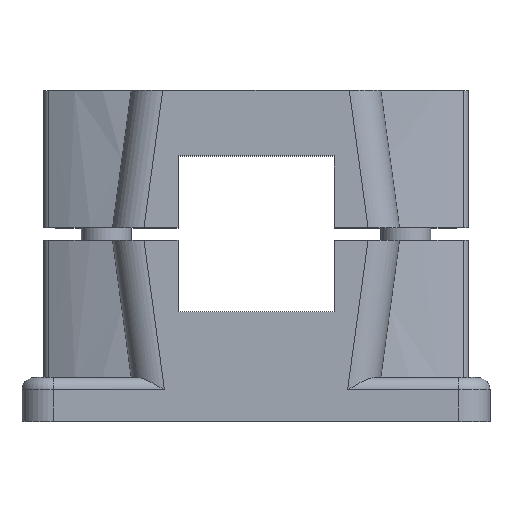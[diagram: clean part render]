
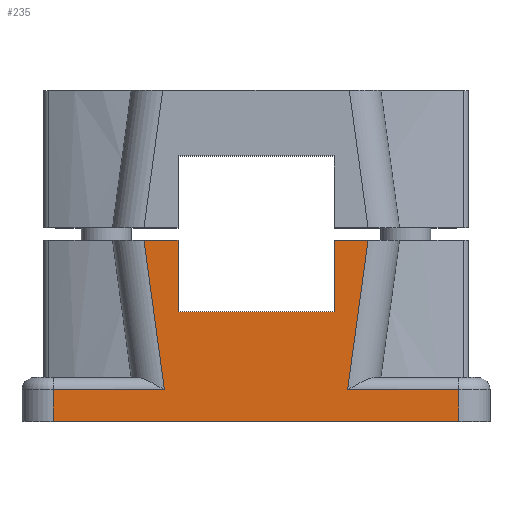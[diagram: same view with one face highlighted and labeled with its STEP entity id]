
A CAD part, top view. The second image highlights one B-rep face of the part: STEP entity #235.
In plain terms, the highlighted planar face has unit normal (0, 0, 1).
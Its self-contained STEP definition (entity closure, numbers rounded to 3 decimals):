
#235 = ADVANCED_FACE( '', ( #676 ), #677, .T. );
#676 = FACE_OUTER_BOUND( '', #1188, .T. );
#677 = PLANE( '', #1189 );
#1188 = EDGE_LOOP( '', ( #2630, #2631, #2632, #2633, #2634, #2635, #2636, #2637, #2638, #2639, #2640, #2641 ) );
#1189 = AXIS2_PLACEMENT_3D( '', #2642, #2643, #2644 );
#2630 = ORIENTED_EDGE( '', *, *, #3654, .F. );
#2631 = ORIENTED_EDGE( '', *, *, #3593, .F. );
#2632 = ORIENTED_EDGE( '', *, *, #3647, .T. );
#2633 = ORIENTED_EDGE( '', *, *, #3610, .F. );
#2634 = ORIENTED_EDGE( '', *, *, #3632, .T. );
#2635 = ORIENTED_EDGE( '', *, *, #3451, .T. );
#2636 = ORIENTED_EDGE( '', *, *, #3485, .F. );
#2637 = ORIENTED_EDGE( '', *, *, #3435, .F. );
#2638 = ORIENTED_EDGE( '', *, *, #3204, .T. );
#2639 = ORIENTED_EDGE( '', *, *, #3635, .F. );
#2640 = ORIENTED_EDGE( '', *, *, #3572, .T. );
#2641 = ORIENTED_EDGE( '', *, *, #3655, .F. );
#2642 = CARTESIAN_POINT( '', ( 0., 0., 25. ) );
#2643 = DIRECTION( '', ( 0., 0., 1. ) );
#2644 = DIRECTION( '', ( 1., 0., 0. ) );
#3204 = EDGE_CURVE( '', #3803, #3801, #3804, .T. );
#3435 = EDGE_CURVE( '', #3803, #4211, #4212, .T. );
#3451 = EDGE_CURVE( '', #4232, #4235, #4237, .T. );
#3485 = EDGE_CURVE( '', #4211, #4235, #4298, .T. );
#3572 = EDGE_CURVE( '', #4448, #4446, #4449, .T. );
#3593 = EDGE_CURVE( '', #4487, #4482, #4489, .T. );
#3610 = EDGE_CURVE( '', #4511, #4509, #4513, .T. );
#3632 = EDGE_CURVE( '', #4511, #4232, #4544, .T. );
#3635 = EDGE_CURVE( '', #4448, #3801, #4547, .F. );
#3647 = EDGE_CURVE( '', #4487, #4509, #4569, .T. );
#3654 = EDGE_CURVE( '', #4482, #4580, #4581, .T. );
#3655 = EDGE_CURVE( '', #4580, #4446, #4582, .T. );
#3801 = VERTEX_POINT( '', #4822 );
#3803 = VERTEX_POINT( '', #4839 );
#3804 = LINE( '', #4840, #4841 );
#4211 = VERTEX_POINT( '', #5409 );
#4212 = LINE( '', #5410, #5411 );
#4232 = VERTEX_POINT( '', #5433 );
#4235 = VERTEX_POINT( '', #5436 );
#4237 = LINE( '', #5438, #5439 );
#4298 = LINE( '', #5515, #5516 );
#4446 = VERTEX_POINT( '', #5721 );
#4448 = VERTEX_POINT( '', #5724 );
#4449 = LINE( '', #5725, #5726 );
#4482 = VERTEX_POINT( '', #5767 );
#4487 = VERTEX_POINT( '', #5774 );
#4489 = LINE( '', #5777, #5778 );
#4509 = VERTEX_POINT( '', #5807 );
#4511 = VERTEX_POINT( '', #5809 );
#4513 = LINE( '', #5826, #5827 );
#4544 = LINE( '', #5872, #5873 );
#4547 = LINE( '', #5878, #5879 );
#4569 = LINE( '', #5907, #5908 );
#4580 = VERTEX_POINT( '', #5925 );
#4581 = LINE( '', #5926, #5927 );
#4582 = LINE( '', #5928, #5929 );
#4822 = CARTESIAN_POINT( '', ( 14.681, -25., 25. ) );
#4839 = CARTESIAN_POINT( '', ( 32.5, -25., 25. ) );
#4840 = CARTESIAN_POINT( '', ( 32.5, -25., 25. ) );
#4841 = VECTOR( '', #6221, 1000. );
#5409 = CARTESIAN_POINT( '', ( 32.5, -30., 25. ) );
#5410 = CARTESIAN_POINT( '', ( 32.5, -25., 25. ) );
#5411 = VECTOR( '', #6590, 1000. );
#5433 = CARTESIAN_POINT( '', ( -32.5, -25., 25. ) );
#5436 = CARTESIAN_POINT( '', ( -32.5, -30., 25. ) );
#5438 = CARTESIAN_POINT( '', ( -32.5, -25., 25. ) );
#5439 = VECTOR( '', #6632, 1000. );
#5515 = CARTESIAN_POINT( '', ( 32.5, -30., 25. ) );
#5516 = VECTOR( '', #6702, 1000. );
#5721 = CARTESIAN_POINT( '', ( 12.5, -1., 25. ) );
#5724 = CARTESIAN_POINT( '', ( 17.954, -1., 25. ) );
#5725 = CARTESIAN_POINT( '', ( 0., -1., 25. ) );
#5726 = VECTOR( '', #6845, 1000. );
#5767 = CARTESIAN_POINT( '', ( -12.5, -12.5, 25. ) );
#5774 = CARTESIAN_POINT( '', ( -12.5, -1., 25. ) );
#5777 = CARTESIAN_POINT( '', ( -12.5, 12.5, 25. ) );
#5778 = VECTOR( '', #6884, 1000. );
#5807 = CARTESIAN_POINT( '', ( -17.954, -1., 25. ) );
#5809 = CARTESIAN_POINT( '', ( -14.681, -25., 25. ) );
#5826 = CARTESIAN_POINT( '', ( -14.669, -25.086, 25. ) );
#5827 = VECTOR( '', #6912, 1000. );
#5872 = CARTESIAN_POINT( '', ( 32.5, -25., 25. ) );
#5873 = VECTOR( '', #6948, 1000. );
#5878 = CARTESIAN_POINT( '', ( 14.669, -25.086, 25. ) );
#5879 = VECTOR( '', #6951, 1000. );
#5907 = CARTESIAN_POINT( '', ( 0., -1., 25. ) );
#5908 = VECTOR( '', #6973, 1000. );
#5925 = CARTESIAN_POINT( '', ( 12.5, -12.5, 25. ) );
#5926 = CARTESIAN_POINT( '', ( -12.5, -12.5, 25. ) );
#5927 = VECTOR( '', #6980, 1000. );
#5928 = CARTESIAN_POINT( '', ( 12.5, -12.5, 25. ) );
#5929 = VECTOR( '', #6981, 1000. );
#6221 = DIRECTION( '', ( -1., 0., 0. ) );
#6590 = DIRECTION( '', ( 0., -1., 0. ) );
#6632 = DIRECTION( '', ( 0., -1., 0. ) );
#6702 = DIRECTION( '', ( -1., 0., 0. ) );
#6845 = DIRECTION( '', ( -1., 0., 0. ) );
#6884 = DIRECTION( '', ( 0., -1., 0. ) );
#6912 = DIRECTION( '', ( -0.135, 0.991, 0. ) );
#6948 = DIRECTION( '', ( -1., 0., 0. ) );
#6951 = DIRECTION( '', ( 0.135, 0.991, 0. ) );
#6973 = DIRECTION( '', ( -1., 0., 0. ) );
#6980 = DIRECTION( '', ( 1., 0., 0. ) );
#6981 = DIRECTION( '', ( 0., 1., 0. ) );
